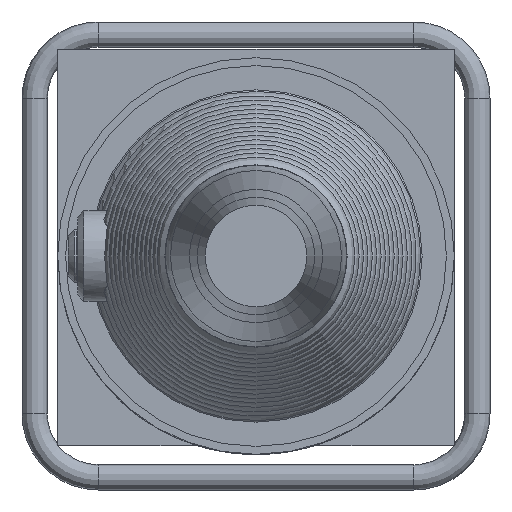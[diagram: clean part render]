
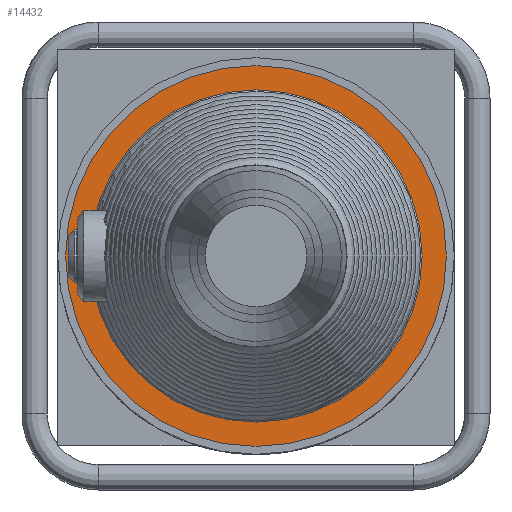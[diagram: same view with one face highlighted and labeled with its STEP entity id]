
A CAD part, left-side view. The second image highlights one B-rep face of the part: STEP entity #14432.
In plain terms, the highlighted planar face has unit normal (-1, 0, 0).
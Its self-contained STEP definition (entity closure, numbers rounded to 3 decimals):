
#1494=PLANE('',#15168);
#3411=FACE_BOUND('',#5156,.T.);
#4213=FACE_OUTER_BOUND('',#5155,.T.);
#5155=EDGE_LOOP('',(#13075));
#5156=EDGE_LOOP('',(#13076));
#5642=CIRCLE('',#15169,120.);
#5643=CIRCLE('',#15170,104.728);
#7056=VERTEX_POINT('',#34482);
#7057=VERTEX_POINT('',#34484);
#9093=EDGE_CURVE('',#7056,#7056,#5642,.T.);
#9094=EDGE_CURVE('',#7057,#7057,#5643,.T.);
#13075=ORIENTED_EDGE('',*,*,#9093,.F.);
#13076=ORIENTED_EDGE('',*,*,#9094,.T.);
#14432=ADVANCED_FACE('',(#4213,#3411),#1494,.T.);
#15168=AXIS2_PLACEMENT_3D('',#34481,#17458,#17459);
#15169=AXIS2_PLACEMENT_3D('',#34483,#17460,#17461);
#15170=AXIS2_PLACEMENT_3D('',#34485,#17462,#17463);
#17458=DIRECTION('center_axis',(-1.,0.,0.));
#17459=DIRECTION('ref_axis',(0.,1.,0.));
#17460=DIRECTION('center_axis',(1.,0.,0.));
#17461=DIRECTION('ref_axis',(0.,0.,
1.));
#17462=DIRECTION('center_axis',(1.,0.,0.));
#17463=DIRECTION('ref_axis',(0.,0.,
1.));
#34481=CARTESIAN_POINT('Origin',(-192.651,0.,
112.364));
#34482=CARTESIAN_POINT('',(-192.651,0.,120.));
#34483=CARTESIAN_POINT('Origin',(-192.651,0.,
0.));
#34484=CARTESIAN_POINT('',(-192.651,0.,104.728));
#34485=CARTESIAN_POINT('Origin',(-192.651,0.,
0.));
